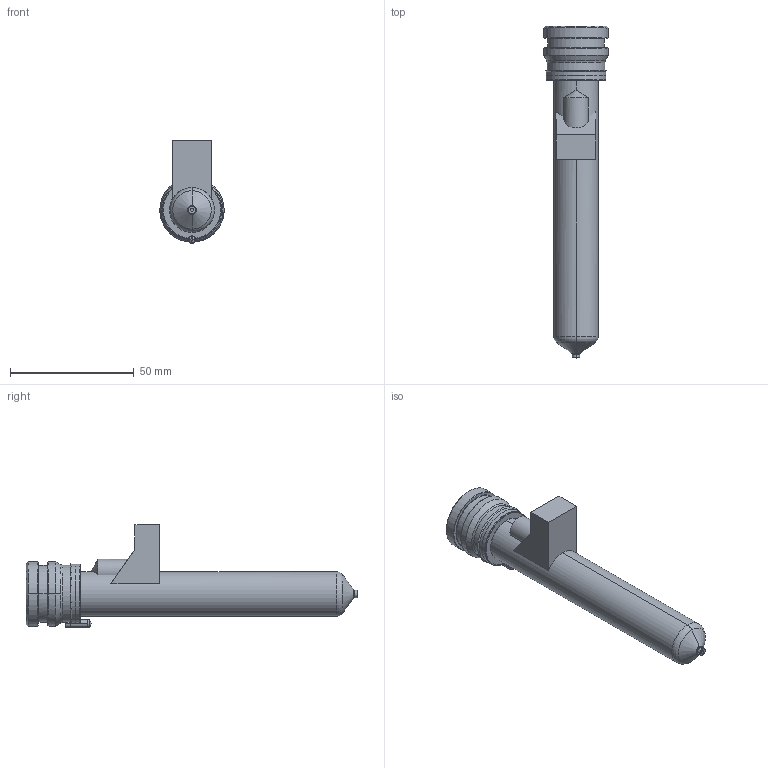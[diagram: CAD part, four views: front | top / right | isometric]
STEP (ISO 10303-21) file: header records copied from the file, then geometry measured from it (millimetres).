
FILE_DESCRIPTION((''),'2;1');
FILE_NAME('MPN-08-24-VP3-116-M','2026-02-05T13:32:50',('UPTIO'),('Thermoplay S.p.A.'),'CREO PARAMETRIC BY PTC INC, 2023494','CREO PARAMETRIC BY PTC INC, 2023494','');
FILE_SCHEMA(('CONFIG_CONTROL_DESIGN','SHAPE_APPEARANCE_LAYERS_GROUPS'));
Length unit declared in the file: millimetre
Products named in the file (1): MPN-08-24-VP3-116-M
Bounding box: 26 x 134.1 x 41.5 mm (x, y, z)
Volume: 26225.1 mm3; surface area: 34632.8 mm2
Topology: 2 solids, 3 shells, 571 faces, 1494 edges, 922 vertices
Faces by surface type: cylinder 178, plane 143, bspline 103, torus 68, cone 66, sphere 7, extrusion 6
Entity records: 29769 total; most frequent: CARTESIAN_POINT 13259, ORIENTED_EDGE 2970, DIRECTION 2631, EDGE_CURVE 1485, AXIS2_PLACEMENT_3D 1029, VERTEX_POINT 922, EDGE_LOOP 601, VECTOR 573
